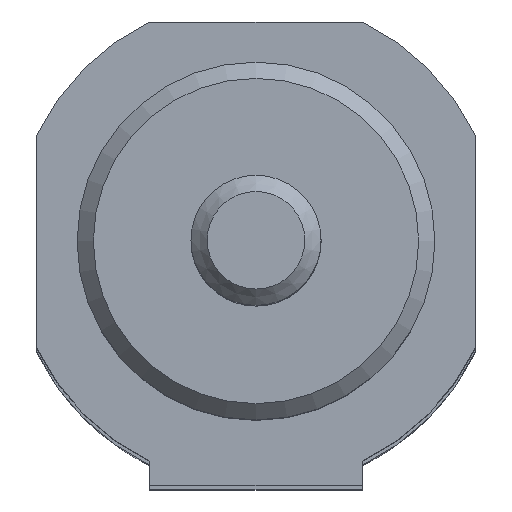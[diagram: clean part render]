
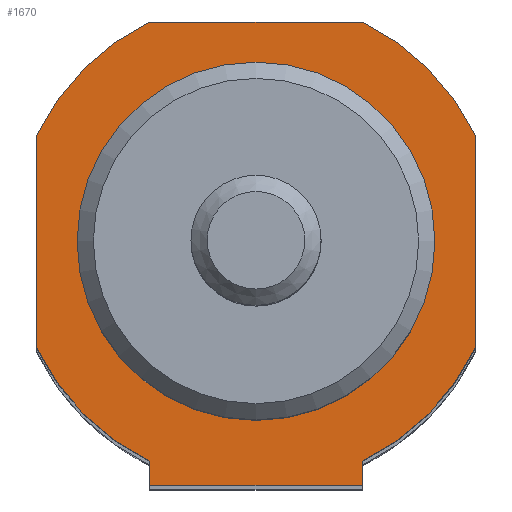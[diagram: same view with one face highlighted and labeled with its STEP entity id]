
A CAD part, top view. The second image highlights one B-rep face of the part: STEP entity #1670.
In plain terms, the highlighted planar face has unit normal (0, 0, 1).
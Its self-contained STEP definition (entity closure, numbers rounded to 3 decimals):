
#101=CARTESIAN_POINT('',(6.538,-15.,181.));
#102=VERTEX_POINT('',#101);
#103=CARTESIAN_POINT('',(-6.538,-15.,181.));
#104=VERTEX_POINT('',#103);
#105=CARTESIAN_POINT('',(6.538,-15.,181.));
#106=DIRECTION('',(-1.0,0.0,0.0));
#107=VECTOR('',#106,13.077);
#108=LINE('',#105,#107);
#109=EDGE_CURVE('',#102,#104,#108,.T.);
#257=CARTESIAN_POINT('',(-6.538,-13.5,181.));
#258=VERTEX_POINT('',#257);
#272=CARTESIAN_POINT('',(-6.538,-13.5,181.));
#273=DIRECTION('',(0.0,-1.0,0.0));
#274=VECTOR('',#273,1.5);
#275=LINE('',#272,#274);
#276=EDGE_CURVE('',#258,#104,#275,.T.);
#288=CARTESIAN_POINT('',(6.538,-13.5,181.));
#289=VERTEX_POINT('',#288);
#296=CARTESIAN_POINT('',(6.538,-13.5,181.));
#297=DIRECTION('',(0.0,-1.0,0.0));
#298=VECTOR('',#297,1.5);
#299=LINE('',#296,#298);
#300=EDGE_CURVE('',#289,#102,#299,.T.);
#1398=CARTESIAN_POINT('',(11.0,0.,181.));
#1399=VERTEX_POINT('',#1398);
#1400=CARTESIAN_POINT('',(0.,0.0,181.));
#1401=DIRECTION('',(0.0,0.0,-1.0));
#1402=DIRECTION('',(-1.0,0.0,0.0));
#1403=AXIS2_PLACEMENT_3D('',#1400,#1401,#1402);
#1404=CIRCLE('',#1403,11.0);
#1405=EDGE_CURVE('',#1399,#1399,#1404,.T.);
#1490=CARTESIAN_POINT('',(-6.538,13.5,181.));
#1491=VERTEX_POINT('',#1490);
#1492=CARTESIAN_POINT('',(6.538,13.5,181.));
#1493=VERTEX_POINT('',#1492);
#1494=CARTESIAN_POINT('',(-6.538,13.5,181.));
#1495=DIRECTION('',(1.0,0.0,0.0));
#1496=VECTOR('',#1495,13.077);
#1497=LINE('',#1494,#1496);
#1498=EDGE_CURVE('',#1491,#1493,#1497,.T.);
#1521=CARTESIAN_POINT('',(13.5,6.538,181.));
#1522=VERTEX_POINT('',#1521);
#1523=CARTESIAN_POINT('',(0.,0.,181.0));
#1524=DIRECTION('',(0.,0.,-1.0));
#1525=DIRECTION('',(0.9,0.436,0.));
#1526=AXIS2_PLACEMENT_3D('',#1523,#1524,#1525);
#1527=CIRCLE('',#1526,15.);
#1528=EDGE_CURVE('',#1493,#1522,#1527,.T.);
#1546=CARTESIAN_POINT('',(13.5,-6.538,181.));
#1547=VERTEX_POINT('',#1546);
#1548=CARTESIAN_POINT('',(13.5,6.538,181.));
#1549=DIRECTION('',(0.0,-1.0,0.0));
#1550=VECTOR('',#1549,13.077);
#1551=LINE('',#1548,#1550);
#1552=EDGE_CURVE('',#1522,#1547,#1551,.T.);
#1570=CARTESIAN_POINT('',(0.,0.,181.0));
#1571=DIRECTION('',(0.,0.,-1.0));
#1572=DIRECTION('',(0.436,-0.9,0.));
#1573=AXIS2_PLACEMENT_3D('',#1570,#1571,#1572);
#1574=CIRCLE('',#1573,15.);
#1575=EDGE_CURVE('',#1547,#289,#1574,.T.);
#1588=CARTESIAN_POINT('',(-13.5,-6.538,181.));
#1589=VERTEX_POINT('',#1588);
#1590=CARTESIAN_POINT('',(0.,0.,181.0));
#1591=DIRECTION('',(0.,0.,-1.0));
#1592=DIRECTION('',(-0.9,-0.436,0.));
#1593=AXIS2_PLACEMENT_3D('',#1590,#1591,#1592);
#1594=CIRCLE('',#1593,15.);
#1595=EDGE_CURVE('',#258,#1589,#1594,.T.);
#1613=CARTESIAN_POINT('',(-13.5,6.538,181.));
#1614=VERTEX_POINT('',#1613);
#1615=CARTESIAN_POINT('',(-13.5,-6.538,181.));
#1616=DIRECTION('',(0.0,1.0,0.0));
#1617=VECTOR('',#1616,13.077);
#1618=LINE('',#1615,#1617);
#1619=EDGE_CURVE('',#1589,#1614,#1618,.T.);
#1637=CARTESIAN_POINT('',(0.,0.,181.0));
#1638=DIRECTION('',(0.,0.,-1.0));
#1639=DIRECTION('',(-0.436,0.9,0.));
#1640=AXIS2_PLACEMENT_3D('',#1637,#1638,#1639);
#1641=CIRCLE('',#1640,15.);
#1642=EDGE_CURVE('',#1614,#1491,#1641,.T.);
#1650=CARTESIAN_POINT('',(0.,0.0,181.));
#1651=DIRECTION('',(0.0,0.0,1.0));
#1652=DIRECTION('',(1.0,0.0,0.0));
#1653=AXIS2_PLACEMENT_3D('',#1650,#1651,#1652);
#1654=PLANE('',#1653);
#1655=ORIENTED_EDGE('',*,*,#1498,.F.);
#1656=ORIENTED_EDGE('',*,*,#1642,.F.);
#1657=ORIENTED_EDGE('',*,*,#1619,.F.);
#1658=ORIENTED_EDGE('',*,*,#1595,.F.);
#1659=ORIENTED_EDGE('',*,*,#276,.T.);
#1660=ORIENTED_EDGE('',*,*,#109,.F.);
#1661=ORIENTED_EDGE('',*,*,#300,.F.);
#1662=ORIENTED_EDGE('',*,*,#1575,.F.);
#1663=ORIENTED_EDGE('',*,*,#1552,.F.);
#1664=ORIENTED_EDGE('',*,*,#1528,.F.);
#1665=EDGE_LOOP('',(#1655,#1656,#1657,#1658,#1659,#1660,#1661,#1662,#1663,#1664));
#1666=FACE_OUTER_BOUND('',#1665,.T.);
#1667=ORIENTED_EDGE('',*,*,#1405,.T.);
#1668=EDGE_LOOP('',(#1667));
#1669=FACE_BOUND('',#1668,.T.);
#1670=ADVANCED_FACE('',(#1666,#1669),#1654,.T.);
